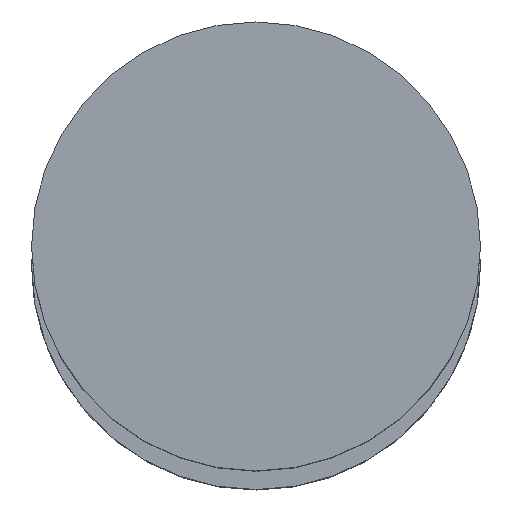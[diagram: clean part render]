
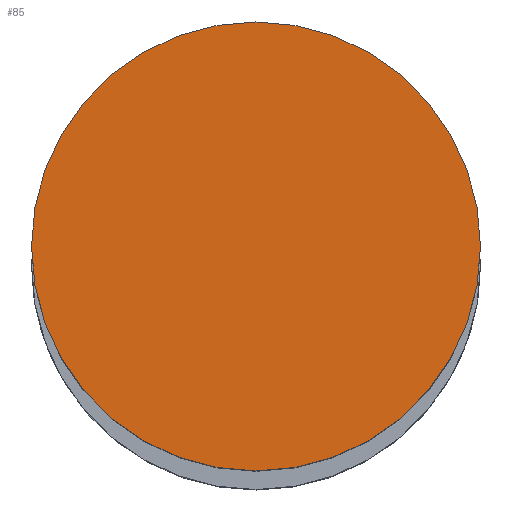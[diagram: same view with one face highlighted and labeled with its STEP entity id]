
A CAD part, top view. The second image highlights one B-rep face of the part: STEP entity #85.
In plain terms, the highlighted planar face has unit normal (0, 0, 1).
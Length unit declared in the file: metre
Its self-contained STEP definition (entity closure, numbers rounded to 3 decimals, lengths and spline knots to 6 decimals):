
#85=ADVANCED_FACE('56:4857',(#165),#166,.F.);
#165=FACE_OUTER_BOUND('',#244,.T.);
#166=PLANE('',#245);
#244=EDGE_LOOP('',(#390,#391));
#245=AXIS2_PLACEMENT_3D('',#392,#393,#394);
#390=ORIENTED_EDGE('',*,*,#433,.F.);
#391=ORIENTED_EDGE('',*,*,#478,.F.);
#392=CARTESIAN_POINT('',(-0.000092,0.000095,3.474));
#393=DIRECTION('',(0.0,0.0,-1.0));
#394=DIRECTION('',(1.0,0.0,0.0));
#433=EDGE_CURVE('27:1418',#505,#501,#507,.T.);
#478=EDGE_CURVE('',#501,#505,#572,.T.);
#501=VERTEX_POINT('',#607);
#505=VERTEX_POINT('',#612);
#507=CIRCLE('',#615,0.0155);
#572=CIRCLE('',#694,0.0155);
#607=CARTESIAN_POINT('',(0.015408,0.000095,3.474));
#612=CARTESIAN_POINT('',(-0.015592,0.000095,3.474));
#615=AXIS2_PLACEMENT_3D('',#736,#737,#738);
#694=AXIS2_PLACEMENT_3D('',#801,#802,#803);
#736=CARTESIAN_POINT('',(-0.000092,0.000095,3.474));
#737=DIRECTION('',(0.0,0.0,-1.0));
#738=DIRECTION('',(1.0,0.0,0.0));
#801=CARTESIAN_POINT('',(-0.000092,0.000095,3.474));
#802=DIRECTION('',(0.0,0.0,-1.0));
#803=DIRECTION('',(1.0,0.0,0.0));
